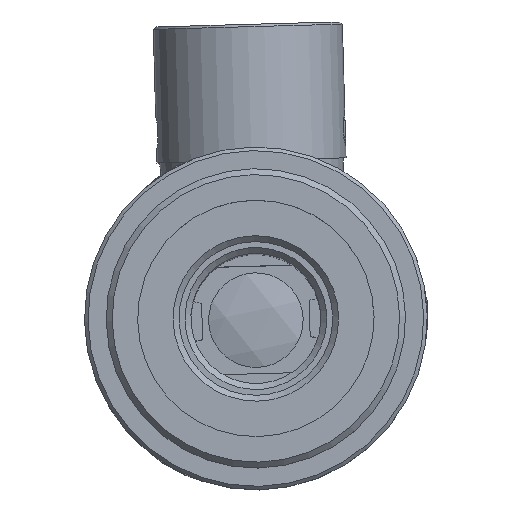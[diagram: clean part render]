
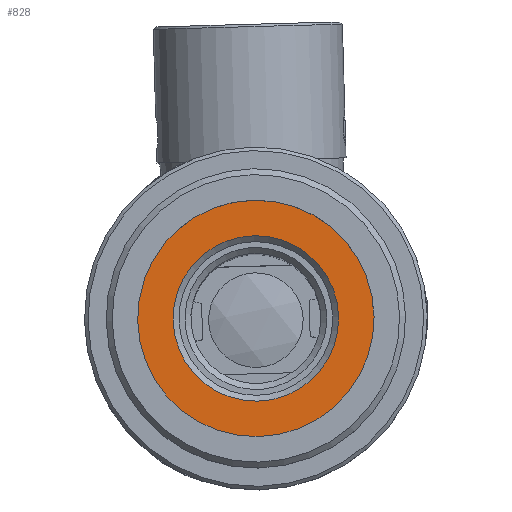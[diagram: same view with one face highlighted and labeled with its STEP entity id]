
A CAD part, top view. The second image highlights one B-rep face of the part: STEP entity #828.
In plain terms, the highlighted planar face has unit normal (0, 0, 1).
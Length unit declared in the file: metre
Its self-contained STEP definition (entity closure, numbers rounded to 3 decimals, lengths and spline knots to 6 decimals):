
#828=ADVANCED_FACE('NONE',(#1873,#1874),#1875,.F.);
#1873=FACE_BOUND('',#3129,.T.);
#1874=FACE_OUTER_BOUND('',#3130,.T.);
#1875=PLANE('',#3131);
#3129=EDGE_LOOP('',(#5454));
#3130=EDGE_LOOP('',(#5455));
#3131=AXIS2_PLACEMENT_3D('',#5456,#5457,#5458);
#5454=ORIENTED_EDGE('',*,*,#7114,.T.);
#5455=ORIENTED_EDGE('',*,*,#7115,.F.);
#5456=CARTESIAN_POINT('',(-0.000759,0.007888,0.0559));
#5457=DIRECTION('',(0.,0.,-1.0));
#5458=DIRECTION('',(0.,-1.0,0.));
#7114=EDGE_CURVE('NONE',#8439,#8439,#8440,.T.);
#7115=EDGE_CURVE('NONE',#8441,#8441,#8442,.T.);
#8439=VERTEX_POINT('',#10534);
#8440=CIRCLE('',#10535,0.007);
#8441=VERTEX_POINT('',#10536);
#8442=CIRCLE('',#10537,0.01);
#10534=CARTESIAN_POINT('',(-0.011722,0.002522,0.0559));
#10535=AXIS2_PLACEMENT_3D('',#12328,#12329,#12330);
#10536=CARTESIAN_POINT('',(-0.014348,0.003973,0.0559));
#10537=AXIS2_PLACEMENT_3D('',#12331,#12332,#12333);
#12328=CARTESIAN_POINT('',(-0.005596,-0.000864,0.0559));
#12329=DIRECTION('',(0.,0.,-1.0));
#12330=DIRECTION('',(-0.875,0.484,0.));
#12331=CARTESIAN_POINT('',(-0.005596,-0.000864,0.0559));
#12332=DIRECTION('',(0.,0.,-1.0));
#12333=DIRECTION('',(-0.875,0.484,0.));
